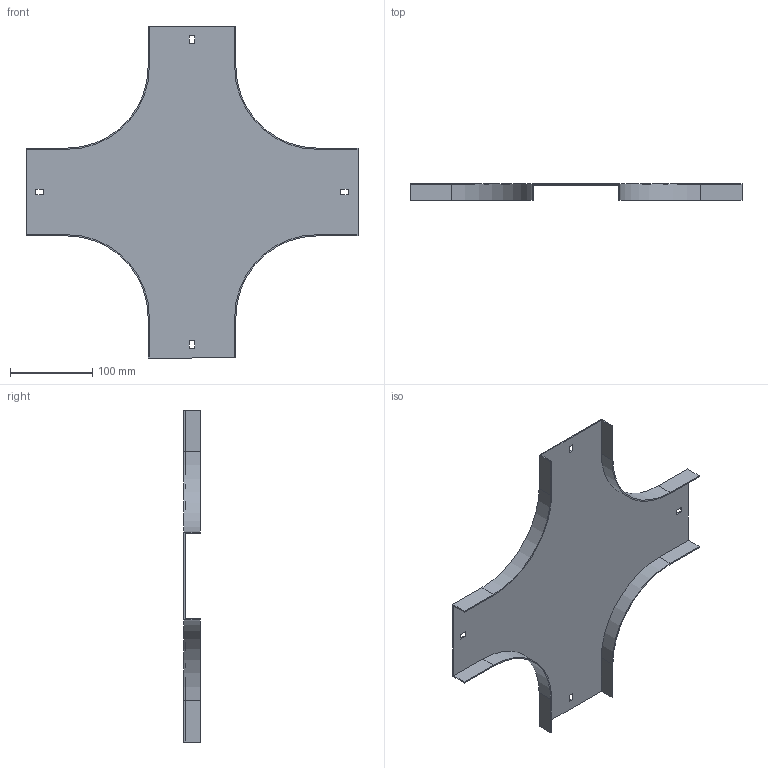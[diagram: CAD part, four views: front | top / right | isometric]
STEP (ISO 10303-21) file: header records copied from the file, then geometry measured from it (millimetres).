
FILE_DESCRIPTION (( 'STEP AP214' ), '1' );
FILE_NAME ('17N1R100.step', '2025-02-21T09:52:38', ( '' ), ( '' ), 'SwSTEP 2.0', 'SolidWorks 2023', '' );
FILE_SCHEMA (( 'AUTOMOTIVE_DESIGN' ));
Length unit declared in the file: millimetre
Products named in the file (1): 17N1R100
Bounding box: 404 x 20 x 404 mm (x, y, z)
Volume: 153057.3 mm3; surface area: 206654.7 mm2
Topology: 1 solids, 1 shells, 50 faces, 144 edges, 96 vertices
Faces by surface type: plane 42, cylinder 8
Entity records: 1663 total; most frequent: CARTESIAN_POINT 291, ORIENTED_EDGE 288, DIRECTION 262, EDGE_CURVE 144, LINE 128, VECTOR 128, VERTEX_POINT 96, AXIS2_PLACEMENT_3D 67
